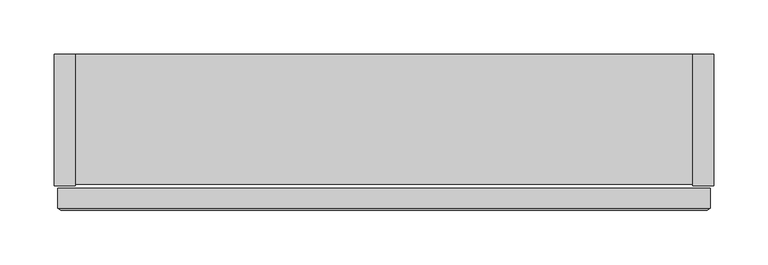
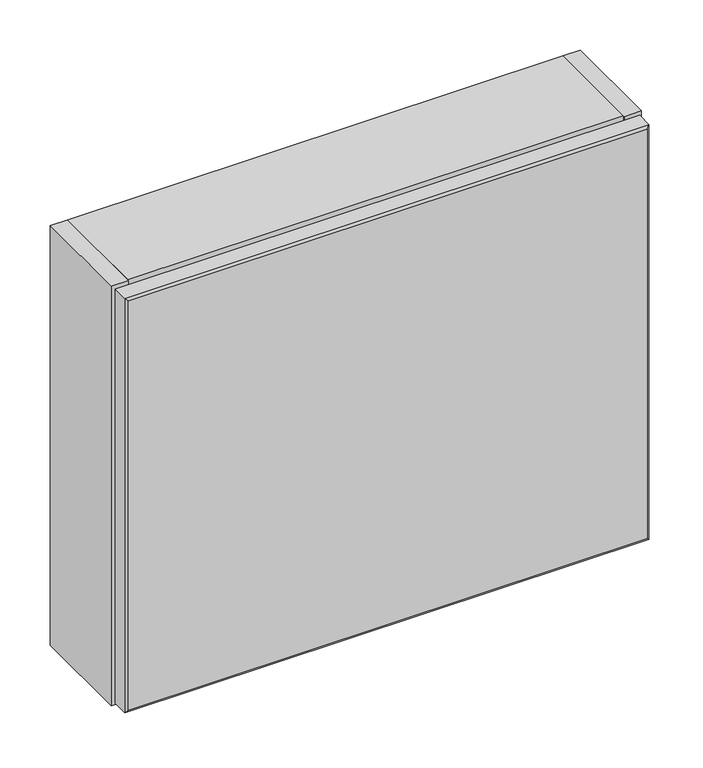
"""IFC4 building model written with IfcOpenShell, lengths in millimetres: furniture geometry, HermanMiller_Compass_TW324_PaperTowelCabinet : 20H x 6D x 24W Durawrap R."""

from ifc_helpers import new_model, si_unit, frame, origin, place, context, project, spatial, polyline, outline, extrude, faceted_brep, source, transform, mapped, element, save


def furniture_a7473f77(model_context):
    return source(origin(), model_context, "Body", "SolidModel", [
        extrude(outline(polyline([(303.9805048, 0.0), (323.5377049, 0.0), (323.5377049, -121.7304297), (303.9805048, -121.7304297), (303.9805048, 0.0)])), frame((0.0, 0.0, 1608.4351563), z_axis=(0.0, 0.0, 1.0), x_axis=(1.0, 0.0, 0.0)), (0.0, 0.0, 1.0), 510.8773437),
        extrude(outline(polyline([(-286.0622951, 0.0), (-266.4801283, 0.0), (-266.4801283, -121.7304297), (-286.0622951, -121.7304297), (-286.0622951, 0.0)])), frame((0.0, 0.0, 1608.4351563), z_axis=(0.0, 0.0, 1.0), x_axis=(1.0, 0.0, 0.0)), (0.0, 0.0, 1.0), 510.8773437),
        faceted_brep([(320.3627049, -123.8219751, 2116.1375), (-282.8872951, -123.8219751, 2116.1375), (-282.8872951, -142.6304531, 2116.1375), (320.3627049, -142.6304531, 2116.1375), (-282.8872951, -123.8219751, 1611.6101562), (320.3627049, -123.8219751, 1611.6101562), (320.3627049, -142.6304531, 1611.6101562), (-282.8872951, -142.6304531, 1611.6101562), (-279.7122951, -144.4625, 2112.9625), (-279.7122951, -144.4625, 1614.7851562), (317.1877049, -144.4625, 1614.7851563), (317.1877049, -144.4625, 2112.9625)], [[[0, 1, 2, 3]], [[4, 5, 6, 7]], [[1, 4, 7, 2]], [[8, 9, 10, 11]], [[5, 0, 3, 6]], [[1, 0, 5, 4]], [[7, 9, 8, 2]], [[9, 7, 6, 10]], [[10, 6, 3, 11]], [[2, 8, 11, 3]]]),
        extrude(outline(polyline([(-120.2065038, 2119.3125), (0.0, 2119.3125), (0.0, 1608.4351563), (-19.5571979, 1608.4351563), (-19.5571979, 2065.3375), (-120.2065038, 2065.3375), (-120.2065038, 2119.3125)])), frame((-266.4801283, 0.0, 0.0), z_axis=(1.0, 0.0, 0.0), x_axis=(0.0, 1.0, 0.0)), (0.0, 0.0, 1.0), 570.460633),
        extrude(outline(polyline([(-140.0122951, -118.6135037), (-266.4801283, -118.6135037), (-266.4801283, -19.5571979), (-140.0122951, -19.5571979), (-140.0122951, -118.6135037)])), frame((0.0, 0.0, 1630.3324962), z_axis=(0.0, 0.0, 1.0), x_axis=(1.0, 0.0, 0.0)), (0.0, 0.0, 1.0), 19.05),
        extrude(outline(polyline([(303.9805048, -118.6135037), (177.4877049, -118.6135037), (177.4877049, -19.5571979), (303.9805048, -19.5571979), (303.9805048, -118.6135037)])), frame((0.0, 0.0, 1630.3324962), z_axis=(0.0, 0.0, 1.0), x_axis=(1.0, 0.0, 0.0)), (0.0, 0.0, 1.0), 19.05),
    ])


if __name__ == "__main__":
    model = new_model("IFC4")
    model_context = context("Model", 3, world=origin())
    ifc_project = project(units=[si_unit("LENGTHUNIT", "METRE", prefix="MILLI")], contexts=[model_context])
    site = spatial("IfcSite", under=ifc_project)
    building = spatial("IfcBuilding", under=site)
    placement = place(None, origin())
    furniture_shape = furniture_a7473f77(model_context)
    element("IfcFurniture", 1, ObjectType="HermanMiller_Compass_TW324_PaperTowelCabinet : 20H x 6D x 24W Durawrap R", at=placement, inside=building, context=model_context, shape_type="MappedRepresentation", body=[
        mapped(furniture_shape, transform((0.0, 0.0, 0.0), x_axis=(1.0, 0.0, 0.0), y_axis=(0.0, 1.0, 0.0), z_axis=(0.0, 0.0, 1.0))),
    ])
    save(model, "model.ifc")
